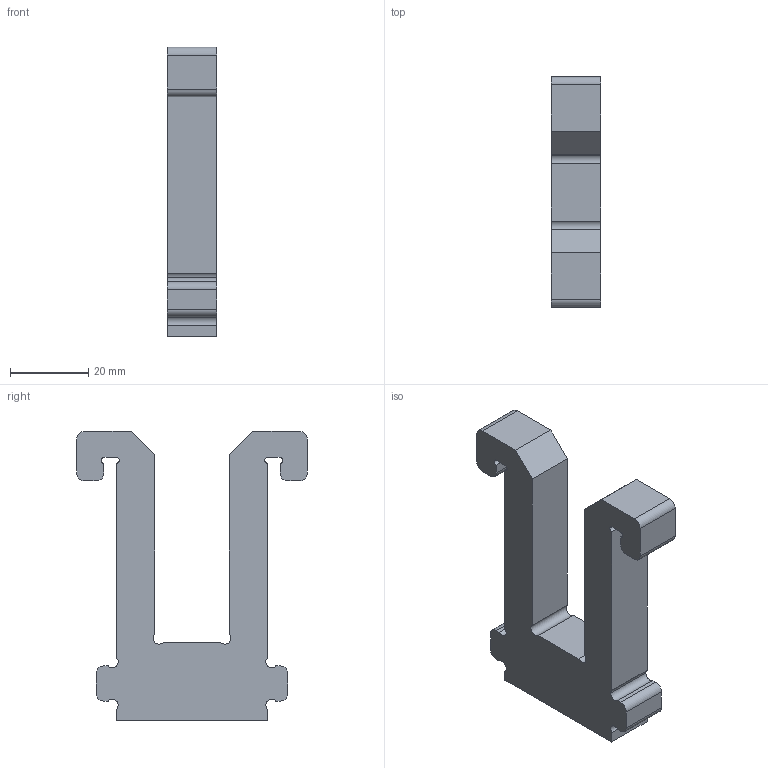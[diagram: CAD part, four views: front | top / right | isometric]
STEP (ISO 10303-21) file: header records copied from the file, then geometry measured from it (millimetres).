
FILE_DESCRIPTION(('HOOPS Exchange Step'),'2;1');
FILE_NAME('/home/e/Projects/CAD/SCS_XX/laptopStand_26/release/_assembly_laptopStandSingle-A-00/P4-A-00.step','2026-10-14T12:42:49-07:00',('e'),('Unknown organisation'),'HOOPS Exchange 2025.8','HOOPS Exchange','Unknown authorisation');
FILE_SCHEMA( ('AP203_CONFIGURATION_CONTROLLED_3D_DESIGN_OF_MECHANICAL_PARTS_AND_ASSEMBLIES_MIM_LF') );
Length unit declared in the file: millimetre
Products named in the file (2): 0; root
Assembly tree (1 placements, depth 2):
  root
    0
Bounding box: 12.7 x 59.04 x 74 mm (x, y, z)
Volume: 26590.7 mm3; surface area: 9387.7 mm2
Topology: 1 solids, 1 shells, 50 faces, 144 edges, 96 vertices
Faces by surface type: plane 28, cylinder 22
Entity records: 1688 total; most frequent: CARTESIAN_POINT 292, DIRECTION 292, ORIENTED_EDGE 288, EDGE_CURVE 144, VECTOR 100, LINE 100, AXIS2_PLACEMENT_3D 96, VERTEX_POINT 96
